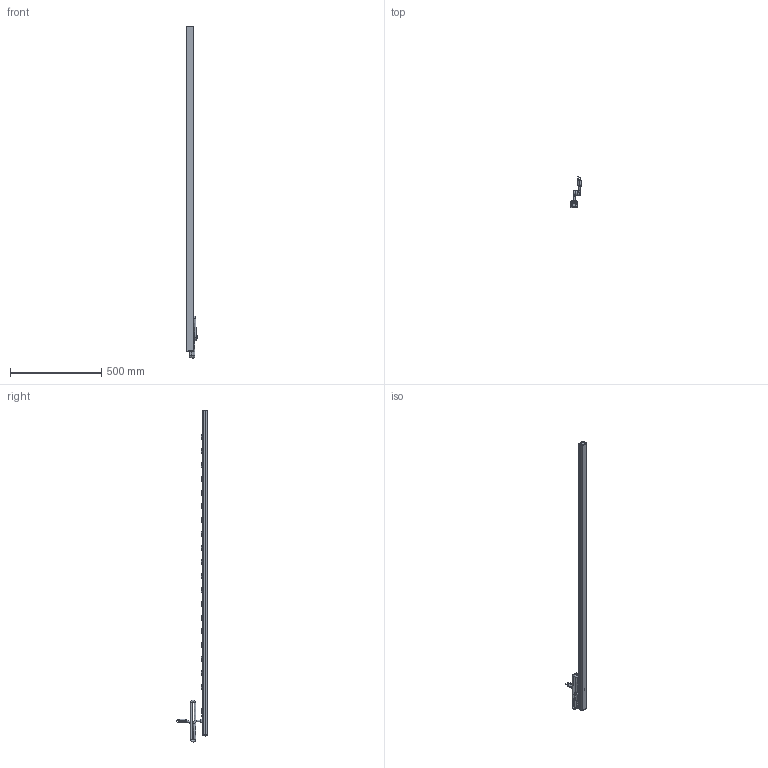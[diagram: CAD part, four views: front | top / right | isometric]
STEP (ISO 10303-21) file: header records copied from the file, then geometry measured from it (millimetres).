
FILE_DESCRIPTION((''),'2;1');
FILE_NAME('E:\Dutton\Manufacturing\drawings\Updated 2009\Vertical Rack Mount Strips\1587 Series\STEP''s\1587T19A1.stp','2010-01-19T14:33:21',('tfoster'),(''),'Autodesk Inventor 2010','Autodesk Inventor 2010','');
FILE_SCHEMA(('AUTOMOTIVE_DESIGN { 1 0 10303 214 1 1 1 1 }'));
Length unit declared in the file: inch
Products named in the file (12): 1587T19A1; 1587H19 top; 1587 bottom; End Cap; End Cap w breaker; Reset Switch; #6 - 0.375 Type A screw; Cored 2; toothwasher; round head 1-way 8-32 x 0.5 screw; Receptacle; Pilot light
Assembly tree (32 placements, depth 2):
  1587T19A1
    1587H19 top
    1587 bottom
    End Cap
    End Cap w breaker
    Reset Switch
    #6 - 0.375 Type A screw  x4
    Cored 2
    toothwasher
    round head 1-way 8-32 x 0.5 screw
    Receptacle  x19
    Pilot light
Bounding box: 60.19 x 170.82 x 1821.58 mm (x, y, z)
Volume: 759679.7 mm3; surface area: 697719 mm2
Topology: 32 solids, 32 shells, 1631 faces, 4470 edges, 2862 vertices
Faces by surface type: plane 1035, cylinder 358, bspline 105, sphere 82, cone 36, torus 15
Full cylindrical faces by diameter (mm): 1.803 x3, 1.905 x2, 3 x2, 3.175 x12, 4.3 x1, 4.775 x1, 4.826 x1, 7.849 x1, 9.5 x5, 11 x1, 15.621 x1, 19.05 x2
Entity records: 26462 total; most frequent: CARTESIAN_POINT 9021, ORIENTED_EDGE 3744, DIRECTION 3207, EDGE_CURVE 1872, VERTEX_POINT 1321, VECTOR 1145, LINE 1145, AXIS2_PLACEMENT_3D 1031
